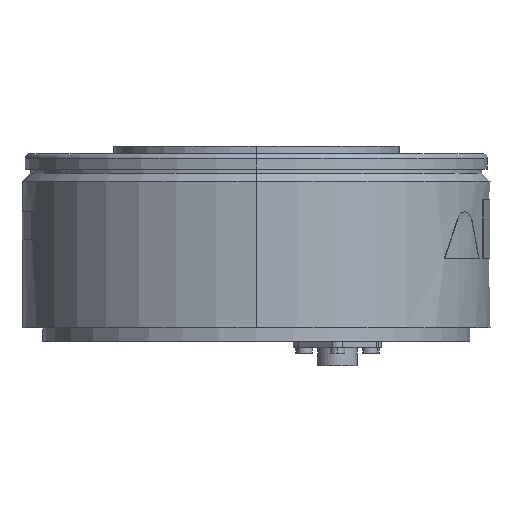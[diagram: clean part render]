
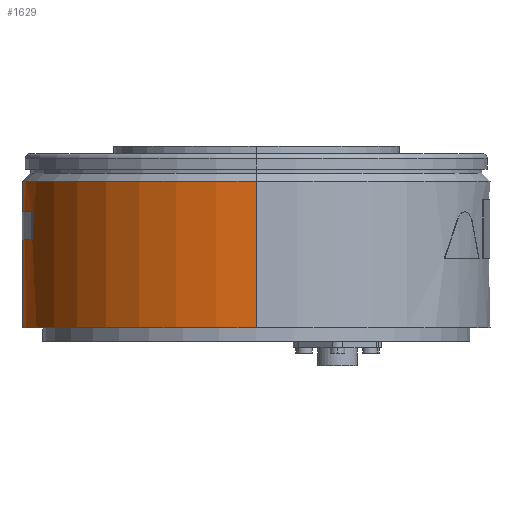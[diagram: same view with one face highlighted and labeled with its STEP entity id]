
A CAD part, left-side view. The second image highlights one B-rep face of the part: STEP entity #1629.
In plain terms, the highlighted cylindrical face has radius 87.5 mm (diameter 175 mm), a partial arc.
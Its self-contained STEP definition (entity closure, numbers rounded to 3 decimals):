
#1552 = VERTEX_POINT ( 'NONE', #5969 ) ;
#1610 = EDGE_CURVE ( 'NONE', #1611, #1552, #6046, .T. ) ;
#1611 = VERTEX_POINT ( 'NONE', #6105 ) ;
#1613 = EDGE_LOOP ( 'NONE', ( #1614, #1615, #1671, #1674 ) ) ;
#1614 = ORIENTED_EDGE ( 'NONE', *, *, #1610, .T. ) ;
#1615 = ORIENTED_EDGE ( 'NONE', *, *, #1616, .T. ) ;
#1616 = EDGE_CURVE ( 'NONE', #1552, #1617, #6104, .T. ) ;
#1617 = VERTEX_POINT ( 'NONE', #6100 ) ;
#1629 = ADVANCED_FACE ( 'NONE', ( #6141, #6140 ), #6139, .T. ) ;
#1630 = EDGE_LOOP ( 'NONE', ( #1631, #1689, #1692, #1695 ) ) ;
#1631 = ORIENTED_EDGE ( 'NONE', *, *, #1632, .T. ) ;
#1632 = EDGE_CURVE ( 'NONE', #1687, #1688, #6138, .T. ) ;
#1671 = ORIENTED_EDGE ( 'NONE', *, *, #1672, .F. ) ;
#1672 = EDGE_CURVE ( 'NONE', #1673, #1617, #6178, .T. ) ;
#1673 = VERTEX_POINT ( 'NONE', #6236 ) ;
#1674 = ORIENTED_EDGE ( 'NONE', *, *, #1675, .F. ) ;
#1675 = EDGE_CURVE ( 'NONE', #1611, #1673, #6235, .T. ) ;
#1687 = VERTEX_POINT ( 'NONE', #6212 ) ;
#1688 = VERTEX_POINT ( 'NONE', #6211 ) ;
#1689 = ORIENTED_EDGE ( 'NONE', *, *, #1690, .T. ) ;
#1690 = EDGE_CURVE ( 'NONE', #1688, #1691, #6210, .T. ) ;
#1691 = VERTEX_POINT ( 'NONE', #6270 ) ;
#1692 = ORIENTED_EDGE ( 'NONE', *, *, #1693, .T. ) ;
#1693 = EDGE_CURVE ( 'NONE', #1691, #1694, #6269, .T. ) ;
#1694 = VERTEX_POINT ( 'NONE', #6265 ) ;
#1695 = ORIENTED_EDGE ( 'NONE', *, *, #1696, .T. ) ;
#1696 = EDGE_CURVE ( 'NONE', #1694, #1687, #6264, .T. ) ;
#5969 = CARTESIAN_POINT ( 'NONE',  ( 87.5, 0., 60. ) ) ;
#6046 = CIRCLE ( 'NONE', #6109, 87.5 ) ;
#6100 = CARTESIAN_POINT ( 'NONE',  ( 87.5, 0., 5. ) ) ;
#6101 = DIRECTION ( 'NONE',  ( 0., 0., -1. ) ) ;
#6102 = VECTOR ( 'NONE', #6101, 1000. ) ;
#6103 = CARTESIAN_POINT ( 'NONE',  ( 87.5, 0., -59.236 ) ) ;
#6104 = LINE ( 'NONE', #6103, #6102 ) ;
#6105 = CARTESIAN_POINT ( 'NONE',  ( -87.5, 0., 60. ) ) ;
#6106 = DIRECTION ( 'NONE',  ( -1., 0., 0. ) ) ;
#6107 = DIRECTION ( 'NONE',  ( 0., 0., -1. ) ) ;
#6108 = CARTESIAN_POINT ( 'NONE',  ( 0., 0., 60. ) ) ;
#6109 = AXIS2_PLACEMENT_3D ( 'NONE', #6108, #6107, #6106 ) ;
#6131 = DIRECTION ( 'NONE',  ( 0., 0., -1. ) ) ;
#6132 = VECTOR ( 'NONE', #6131, 1000. ) ;
#6133 = CARTESIAN_POINT ( 'NONE',  ( -25., 83.853, -59.236 ) ) ;
#6134 = DIRECTION ( 'NONE',  ( -1., 0., 0. ) ) ;
#6135 = DIRECTION ( 'NONE',  ( 0., 0., -1. ) ) ;
#6136 = CARTESIAN_POINT ( 'NONE',  ( 0., 0., -59.236 ) ) ;
#6137 = AXIS2_PLACEMENT_3D ( 'NONE', #6136, #6135, #6134 ) ;
#6138 = LINE ( 'NONE', #6133, #6132 ) ;
#6139 = CYLINDRICAL_SURFACE ( 'NONE', #6137, 87.5 ) ;
#6140 = FACE_OUTER_BOUND ( 'NONE', #1613, .T. ) ;
#6141 = FACE_BOUND ( 'NONE', #1630, .T. ) ;
#6174 = DIRECTION ( 'NONE',  ( -1., 0., 0. ) ) ;
#6175 = DIRECTION ( 'NONE',  ( 0., 0., -1. ) ) ;
#6176 = CARTESIAN_POINT ( 'NONE',  ( 0., 0., 5. ) ) ;
#6177 = AXIS2_PLACEMENT_3D ( 'NONE', #6176, #6175, #6174 ) ;
#6178 = CIRCLE ( 'NONE', #6177, 87.5 ) ;
#6206 = DIRECTION ( 'NONE',  ( 1., 0., 0. ) ) ;
#6207 = DIRECTION ( 'NONE',  ( 0., 0., -1. ) ) ;
#6208 = CARTESIAN_POINT ( 'NONE',  ( 0., 0., 38. ) ) ;
#6209 = AXIS2_PLACEMENT_3D ( 'NONE', #6208, #6207, #6206 ) ;
#6210 = CIRCLE ( 'NONE', #6209, 87.5 ) ;
#6211 = CARTESIAN_POINT ( 'NONE',  ( -25., 83.853, 38. ) ) ;
#6212 = CARTESIAN_POINT ( 'NONE',  ( -25., 83.853, 48.5 ) ) ;
#6232 = DIRECTION ( 'NONE',  ( 0., 0., -1. ) ) ;
#6233 = VECTOR ( 'NONE', #6232, 1000. ) ;
#6234 = CARTESIAN_POINT ( 'NONE',  ( -87.5, 0., -59.236 ) ) ;
#6235 = LINE ( 'NONE', #6234, #6233 ) ;
#6236 = CARTESIAN_POINT ( 'NONE',  ( -87.5, 0., 5. ) ) ;
#6260 = DIRECTION ( 'NONE',  ( -1., 0., 0. ) ) ;
#6261 = DIRECTION ( 'NONE',  ( 0., 0., 1. ) ) ;
#6262 = CARTESIAN_POINT ( 'NONE',  ( 0., 0., 48.5 ) ) ;
#6263 = AXIS2_PLACEMENT_3D ( 'NONE', #6262, #6261, #6260 ) ;
#6264 = CIRCLE ( 'NONE', #6263, 87.5 ) ;
#6265 = CARTESIAN_POINT ( 'NONE',  ( 25., 83.853, 48.5 ) ) ;
#6266 = DIRECTION ( 'NONE',  ( 0., 0., 1. ) ) ;
#6267 = VECTOR ( 'NONE', #6266, 1000. ) ;
#6268 = CARTESIAN_POINT ( 'NONE',  ( 25., 83.853, -59.236 ) ) ;
#6269 = LINE ( 'NONE', #6268, #6267 ) ;
#6270 = CARTESIAN_POINT ( 'NONE',  ( 25., 83.853, 38. ) ) ;
